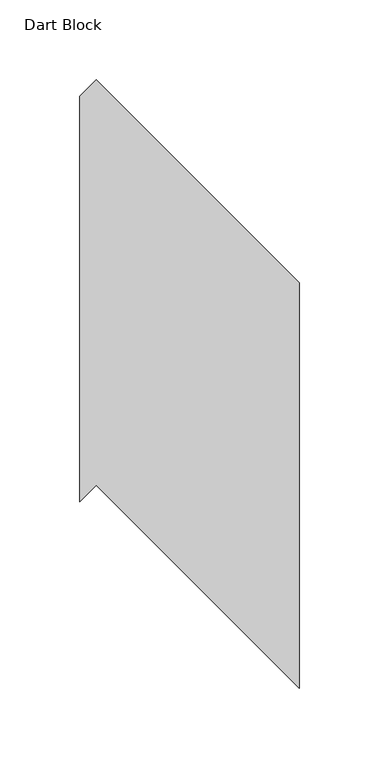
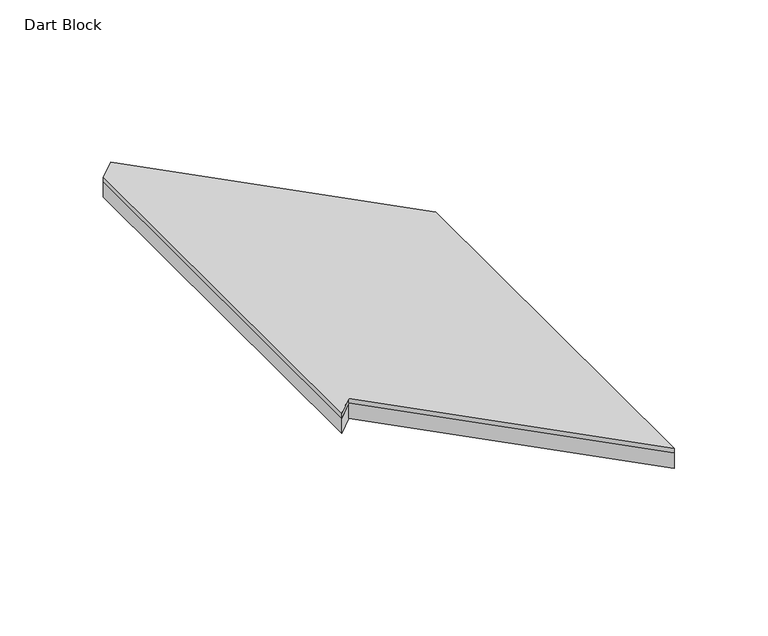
"""IFC4 building model written with IfcOpenShell, lengths in millimetres: proxy geometry, FilzFelt_Dart_Block : Dart Block."""

from ifc_helpers import new_model, si_unit, frame, origin, origin_with_axes, place, context, project, spatial, polyline, outline, extrude, source, transform, mapped, element, save


def dart_block_c7619bbd(model_context):
    return source(origin(), model_context, "Body", "SweptSolid", [
        extrude(outline(polyline([(0.0, 190.5), (127.0, 63.5), (127.0, -190.5), (0.0, -63.5), (-10.2951413, -73.7951413), (-10.2951413, 180.2048587), (0.0, 190.5)])), frame((0.0, 0.0, 10.0210937), z_axis=(0.0, 0.0, 1.0), x_axis=(1.0, 0.0, 0.0)), (0.0, 0.0, 1.0), 2.9765625),
        extrude(outline(polyline([(127.0, -190.5), (0.0, -63.5), (-10.2951413, -73.7951413), (-10.2951413, 180.2048587), (0.0, 190.5), (127.0, 63.5), (127.0, -190.5)])), origin_with_axes(), (0.0, 0.0, 1.0), 10.0210938),
    ])


if __name__ == "__main__":
    model = new_model("IFC4")
    model_context = context("Model", 3, world=origin())
    ifc_project = project(units=[si_unit("LENGTHUNIT", "METRE", prefix="MILLI")], contexts=[model_context])
    site = spatial("IfcSite", under=ifc_project)
    building = spatial("IfcBuilding", under=site)
    placement = place(None, origin())
    dart_block_shape = dart_block_c7619bbd(model_context)
    element("IfcBuildingElementProxy", 1, Name="FilzFelt_Dart_Block : Dart Block", ObjectType="FilzFelt_Dart_Block : Dart Block", at=placement, inside=building, context=model_context, shape_type="MappedRepresentation", body=[
        mapped(dart_block_shape, transform((0.0, 0.0, 0.0), x_axis=(1.0, 0.0, 0.0), y_axis=(0.0, 1.0, 0.0), z_axis=(0.0, 0.0, 1.0))),
    ])
    save(model, "model.ifc")
